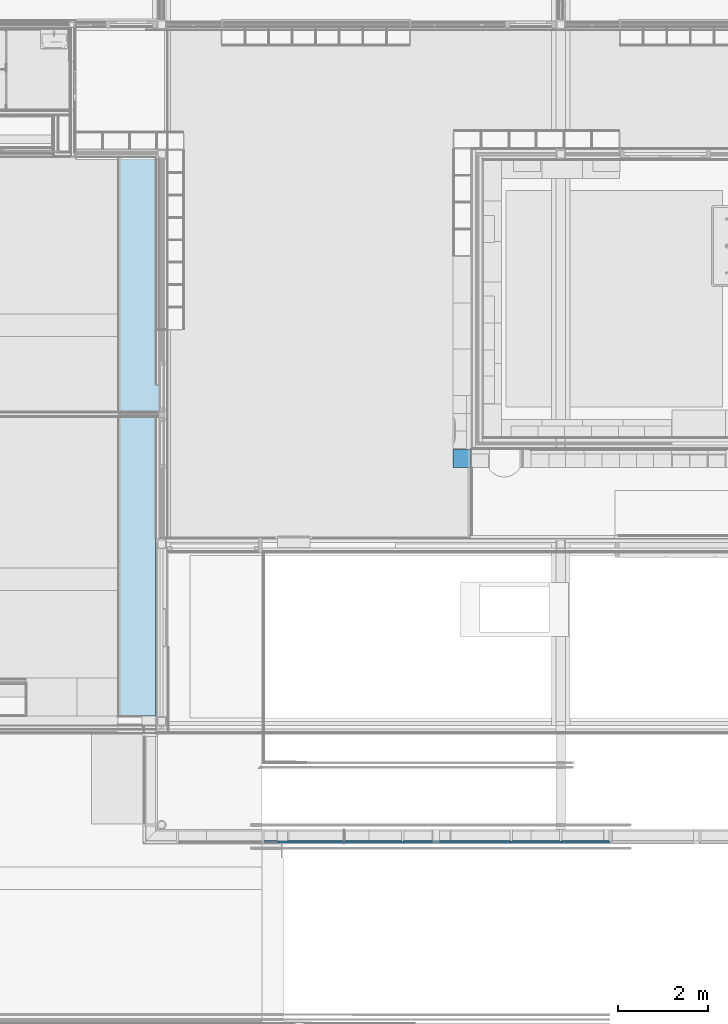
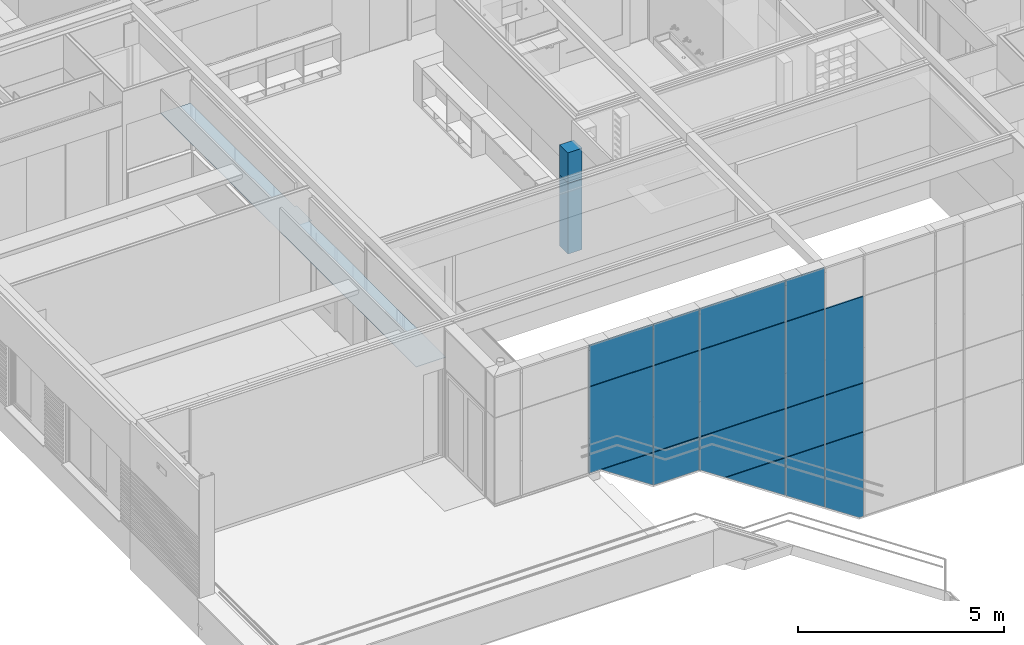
# One storey, part 36 of 137: 17 plates, 3 slabs, 1 element without a shape of its own.
"""IFC2X3 building model written with IfcOpenShell, lengths in millimetres."""

from ifc_helpers import new_model, entity, si_unit, converted_unit, derived_unit, money_unit, direction, frame, origin_with_axes, place, context, subcontext, project, spatial, faceted_brep, material, type_object, element, aggregate, save


model = new_model("IFC2X3")

# Units and contexts
model_context = context("Model", 3, precision=0.01, world=origin_with_axes(), true_north=direction((0.0, 1.0)))
body_context = subcontext(model_context, "Body", "Model", "MODEL_VIEW")
ifc_project = project(units=[si_unit("LENGTHUNIT", "METRE", prefix="MILLI"), si_unit("AREAUNIT", "SQUARE_METRE"), si_unit("VOLUMEUNIT", "CUBIC_METRE"), converted_unit("PLANEANGLEUNIT", "DEGREE", entity("IfcPlaneAngleMeasure", 0.0174532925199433), si_unit("PLANEANGLEUNIT", "RADIAN"), dimensions=[0, 0, 0, 0, 0, 0, 0]), money_unit("EUR"), converted_unit("TIMEUNIT", "Year", entity("IfcTimeMeasure", 31556926.0), si_unit("TIMEUNIT", "SECOND"), dimensions=[0, 0, 1, 0, 0, 0, 0]), si_unit("MASSUNIT", "GRAM", prefix="KILO"), si_unit("THERMODYNAMICTEMPERATUREUNIT", "DEGREE_CELSIUS"), si_unit("LUMINOUSINTENSITYUNIT", "LUMEN"), si_unit("ENERGYUNIT", "JOULE", prefix="MEGA"), derived_unit("THERMALCONDUCTANCEUNIT", [(si_unit("POWERUNIT", "WATT"), 1), (si_unit("LENGTHUNIT", "METRE"), -1), (si_unit("THERMODYNAMICTEMPERATUREUNIT", "KELVIN"), -1)]), derived_unit("SPECIFICHEATCAPACITYUNIT", [(si_unit("ENERGYUNIT", "JOULE"), 1), (si_unit("MASSUNIT", "GRAM", prefix="KILO"), -1), (si_unit("THERMODYNAMICTEMPERATUREUNIT", "KELVIN"), -1)]), derived_unit("MASSDENSITYUNIT", [(si_unit("MASSUNIT", "GRAM", prefix="KILO"), 1), (si_unit("VOLUMEUNIT", "CUBIC_METRE"), -1)])], contexts=[model_context])

# Site, building, storey
site_placement = place(None, origin_with_axes())
site = spatial("IfcSite", under=ifc_project, at=site_placement, Name="Site", CompositionType="ELEMENT")
building_placement = place(site_placement, origin_with_axes())
building = spatial("IfcBuilding", under=site, at=building_placement, Name="Naam gebouw", CompositionType="ELEMENT")
storey_placement = place(building_placement, frame((0.0, 0.0, 3960.0), z_axis=(0.0, 0.0, 1.0), x_axis=(1.0, 0.0, 0.0)))
storey = spatial("IfcBuildingStorey", under=building, at=storey_placement, Name="1e verdieping", CompositionType="ELEMENT", Elevation=3960.0)

# Slabs
ifc_material_1 = material(Name="Gipsplaat")
slab_type_1 = type_object("IfcSlabType", Name="Gipsplaat 12", PredefinedType="NOTDEFINED")
slab_1_placement = place(storey_placement, frame((7887.49997678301, 6993.999955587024, 2600.0), z_axis=(0.0, 0.0, 1.0), x_axis=(1.0, 0.0, 0.0)))
element("IfcSlab", 1, at=slab_1_placement, inside=storey, type_object=slab_type_1, material=ifc_material_1, Name="f7 Vormvaste grondstoffen, gebonden met gips_Vloer-x", PredefinedType="NOTDEFINED", context=body_context, shape_type="Brep", body=[
    faceted_brep([(900.0024147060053, 6620.999855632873, 0.0), (900.0000232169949, 7345.999855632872, 0.0), (900.0000232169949, 7345.999855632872, 11.99999999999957), (900.0024147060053, 6620.999855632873, 11.99999999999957), (840.0000232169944, 12393.49985563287, 0.0), (840.0000232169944, 7345.999855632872, 0.0), (840.0024147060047, 6620.999855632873, 0.0), (840.0024147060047, 3951.000154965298, 0.0), (827.5024289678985, 3951.000210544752, 0.0), (827.5024289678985, 0.0, 0.0), (0.0, 0.0, 0.0), (0.0, 12393.49985563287, 0.0), (840.0000232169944, 7345.999855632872, 11.99999999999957), (840.0000232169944, 12393.49985563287, 11.99999999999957), (0.0, 12393.49985563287, 11.99999999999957), (0.0, 0.0, 11.99999999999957), (827.5024289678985, 0.0, 11.99999999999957), (827.5024289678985, 3951.000210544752, 11.99999999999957), (840.0024147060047, 3951.000154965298, 11.99999999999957), (840.0024147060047, 6620.999855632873, 11.99999999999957)], [[[0, 1, 2, 3]], [[4, 5, 1, 0, 6, 7, 8, 9, 10, 11]], [[5, 12, 2, 1]], [[2, 12, 13, 14, 15, 16, 17, 18, 19, 3]], [[6, 0, 3, 19]], [[5, 4, 13, 12]], [[6, 19, 18, 7]], [[8, 7, 18, 17]], [[17, 16, 9, 8]], [[16, 15, 10, 9]], [[15, 14, 11, 10]], [[14, 13, 4, 11]]]),
])
ifc_material_2 = material(Name="ALG - BINNENAFWERKING")
slab_type_2 = type_object("IfcSlabType", Name="ALG - BINNENAFWERKING 2100", PredefinedType="NOTDEFINED")
slab_2_placement = place(storey_placement, frame((15314.99945671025, 12904.9998112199, 2100.0), z_axis=(0.0, 0.0, 1.0), x_axis=(1.0, 0.0, 0.0)))
element("IfcSlab", 2, at=slab_2_placement, inside=storey, type_object=slab_type_2, material=ifc_material_2, Name="_Vloer-x", PredefinedType="NOTDEFINED", context=body_context, shape_type="Brep", body=[
    faceted_brep([(0.0, 0.0, 0.0), (0.0, 0.0, -2100.0), (0.0, -400.0020449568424, -2100.0), (0.0, -400.0020449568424, 0.0), (399.9999971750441, 0.0, 0.0), (399.9999971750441, 0.0, -2100.0), (399.9999971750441, -400.0020449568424, -2100.0), (399.9999971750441, -400.0020449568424, 0.0)], [[[0, 1, 2, 3]], [[4, 5, 1, 0]], [[2, 1, 5, 6]], [[3, 2, 6, 7]], [[4, 0, 3, 7]], [[7, 6, 5, 4]]]),
])
slab_type_3 = type_object("IfcSlabType", Name="ALG - BINNENAFWERKING 900", PredefinedType="NOTDEFINED")
slab_3_placement = place(storey_placement, frame((15714.9994538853, 12904.9977634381, 3000.0), z_axis=(0.0, 0.0, 1.0), x_axis=(1.0, 0.0, 0.0)))
element("IfcSlab", 3, at=slab_3_placement, inside=storey, type_object=slab_type_3, material=ifc_material_2, Name="_Vloer-x", PredefinedType="NOTDEFINED", context=body_context, shape_type="Brep", body=[
    faceted_brep([(0.0, 0.0, 0.0), (0.0, 0.0, -899.9999999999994), (-399.9999971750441, 0.0, -899.9999999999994), (-399.9999971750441, 0.0, 0.0), (0.0, -399.9999971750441, 0.0), (0.0, -399.9999971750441, -899.9999999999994), (-399.9999971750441, -399.9999971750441, -899.9999999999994), (-399.9999971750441, -399.9999971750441, 0.0)], [[[0, 1, 2, 3]], [[4, 5, 1, 0]], [[2, 1, 5, 6]], [[3, 2, 6, 7]], [[4, 0, 3, 7]], [[7, 6, 5, 4]]]),
])

# Curtain wall, plates
curtain_wall_type = type_object("IfcCurtainWallType", Name="Curtain Wall Type", PredefinedType="NOTDEFINED")
curtain_wall_placement = place(storey_placement, frame((8473.014787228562, 4364.43626274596, -3949.999921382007), z_axis=(0.0, 0.0, 1.0), x_axis=(1.0, 0.0, 0.0)))
curtain_wall = element("IfcCurtainWall", 4, at=curtain_wall_placement, inside=storey, type_object=curtain_wall_type, Name="21_Vliesgevel-x")
ifc_material_3 = material(Name="Glas")
plate_type_1 = type_object("IfcPlateType", Name="Main Panel 320 x 1027 x 42", PredefinedType="CURTAIN_PANEL")
plate_1_placement = place(curtain_wall_placement, frame((7258.020604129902, -161.4362627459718, 2302.704702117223), z_axis=(0.0, 0.0, 1.0), x_axis=(-1.0, 0.0, 0.0)))
plate_1 = element("IfcPlate", 5, at=plate_1_placement, type_object=plate_type_1, material=ifc_material_3, Name="o GLAS_Paneel-x", ObjectType="CURTAIN_PANEL", context=body_context, shape_type="Brep", body=[
    faceted_brep([(-858.9591123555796, -21.00000000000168, 222.2953245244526), (488.0789548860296, -21.0000000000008, 222.2953245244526), (488.0789548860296, 20.99999999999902, 222.2953245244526), (-858.9591123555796, 20.99999999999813, 222.2953245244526), (-858.9591385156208, -21.00000000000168, 137.2950693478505), (-858.9591385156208, -21.00000000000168, -889.3526957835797), (468.6644366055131, -21.0000000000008, -4.270181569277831), (724.6950445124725, -21.0000000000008, 166.4168206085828), (808.5127611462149, -21.0000000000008, 222.2952983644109), (808.5127611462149, 20.99999999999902, 222.2952983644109), (724.6950445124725, 20.99999999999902, 166.4168206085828), (468.6644366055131, 20.99999999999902, -4.270181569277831), (-858.9591385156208, 20.99999999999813, -889.3526957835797), (-858.9591385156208, 20.99999999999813, 137.2950693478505)], [[[0, 1, 2, 3]], [[0, 4, 5, 6, 7, 8, 1]], [[1, 8, 9, 2]], [[3, 2, 9, 10, 11, 12, 13]], [[4, 0, 3, 13]], [[5, 4, 13, 12]], [[6, 5, 12, 11]], [[7, 6, 11, 10]], [[8, 7, 10, 9]]]),
])
plate_type_2 = type_object("IfcPlateType", Name="Main Panel 533 x 965 x 42", PredefinedType="CURTAIN_PANEL")
plate_2_placement = place(curtain_wall_placement, frame((5135.663754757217, -161.4362627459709, 3407.693023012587), z_axis=(0.0, 0.0, 1.0), x_axis=(-1.0, 0.0, 0.0)))
plate_2 = element("IfcPlate", 6, at=plate_2_placement, type_object=plate_type_2, material=ifc_material_3, Name="o GLAS_Paneel-x", ObjectType="CURTAIN_PANEL", context=body_context, shape_type="Brep", body=[
    faceted_brep([(-576.3166334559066, -21.0000000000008, 567.3069071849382), (165.722108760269, -21.0000000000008, 567.3069071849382), (165.722108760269, 20.99999999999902, 567.3069071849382), (-576.3166334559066, 20.99999999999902, 567.3069071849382), (-576.3166334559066, -21.0000000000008, -432.9801796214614), (-576.1776948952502, -21.0000000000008, -432.9801796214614), (-576.1776948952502, -21.0000000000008, -397.9801861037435), (165.722108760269, -21.0000000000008, -397.9801861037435), (698.6833647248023, -21.0000000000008, -397.9801861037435), (698.6833647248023, -21.0000000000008, 567.3069071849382), (698.6833647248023, 20.99999999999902, 567.3069071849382), (698.6833647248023, 20.99999999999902, -397.9801861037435), (165.722108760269, 20.99999999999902, -397.9801861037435), (-576.1776948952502, 20.99999999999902, -397.9801861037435), (-576.1776948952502, 20.99999999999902, -432.9801796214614), (-576.3166334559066, 20.99999999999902, -432.9801796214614)], [[[0, 1, 2, 3]], [[0, 4, 5, 6, 7, 8, 9, 1]], [[1, 9, 10, 2]], [[3, 2, 10, 11, 12, 13, 14, 15]], [[4, 0, 3, 15]], [[5, 4, 15, 14]], [[6, 5, 14, 13]], [[7, 6, 13, 12]], [[8, 7, 12, 11]], [[9, 8, 11, 10]]]),
])
plate_type_3 = type_object("IfcPlateType", Name="Main Panel 195 x 962 x 42", PredefinedType="CURTAIN_PANEL")
plate_3_placement = place(curtain_wall_placement, frame((3415.211090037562, -161.4362627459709, 3734.6746103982), z_axis=(0.0, 0.0, 1.0), x_axis=(-1.0, 0.0, 0.0)))
plate_3 = element("IfcPlate", 7, at=plate_3_placement, type_object=plate_type_3, material=ifc_material_3, Name="o GLAS_Paneel-x", ObjectType="CURTAIN_PANEL", context=body_context, shape_type="Brep", body=[
    faceted_brep([(-1001.769283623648, -21.00000000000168, 240.325299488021), (245.2694618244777, -21.0000000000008, 240.325299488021), (245.2694618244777, 20.99999999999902, 240.325299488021), (-1001.769283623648, 20.99999999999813, 240.325299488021), (-1001.769283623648, -21.00000000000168, -721.3226232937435), (225.8549556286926, -21.0000000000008, 97.09320989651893), (440.7032457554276, -21.0000000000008, 240.325299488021), (440.7032457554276, 20.99999999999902, 240.325299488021), (225.8549556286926, 20.99999999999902, 97.09320989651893), (-1001.769283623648, 20.99999999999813, -721.3226232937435)], [[[0, 1, 2, 3]], [[0, 4, 5, 6, 1]], [[1, 6, 7, 2]], [[3, 2, 7, 8, 9]], [[4, 0, 3, 9]], [[5, 4, 9, 8]], [[6, 5, 8, 7]]]),
])
plate_type_4 = type_object("IfcPlateType", Name="Main Panel 533 x 1500 x 42", PredefinedType="CURTAIN_PANEL")
plate_4_placement = place(curtain_wall_placement, frame((5048.345706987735, -161.4362627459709, 5210.624883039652), z_axis=(0.0, 0.0, 1.0), x_axis=(-1.0, 0.0, 0.0)))
plate_4 = element("IfcPlate", 8, at=plate_4_placement, type_object=plate_type_4, material=ifc_material_3, Name="o GLAS_Paneel-x", ObjectType="CURTAIN_PANEL", context=body_context, shape_type="Brep", body=[
    faceted_brep([(-663.6347029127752, -21.0000000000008, 1329.375022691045), (78.40405317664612, -21.0000000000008, 1329.375022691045), (78.40405317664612, 20.99999999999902, 1329.375022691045), (-663.6347029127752, 20.99999999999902, 1329.375022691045), (-663.6347029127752, -21.0000000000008, -170.6251138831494), (-663.6347029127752, -21.0000000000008, -1215.624948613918), (78.40405317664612, -21.0000000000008, -1215.624948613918), (611.3653137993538, -21.0000000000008, -1215.624948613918), (611.3653137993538, -21.0000000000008, -170.6251138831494), (611.3653137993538, -21.0000000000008, 1329.375022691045), (611.3653137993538, 20.99999999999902, 1329.375022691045), (611.3653137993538, 20.99999999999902, -170.6251138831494), (611.3653137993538, 20.99999999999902, -1215.624948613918), (78.40405317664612, 20.99999999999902, -1215.624948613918), (-663.6347029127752, 20.99999999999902, -1215.624948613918), (-663.6347029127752, 20.99999999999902, -170.6251138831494)], [[[0, 1, 2, 3]], [[0, 4, 5, 6, 7, 8, 9, 1]], [[1, 9, 10, 2]], [[3, 2, 10, 11, 12, 13, 14, 15]], [[4, 0, 3, 15]], [[5, 4, 15, 14]], [[6, 5, 14, 13]], [[7, 6, 13, 12]], [[8, 7, 12, 11]], [[9, 8, 11, 10]]]),
])
plate_5_placement = place(curtain_wall_placement, frame((3382.790487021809, -161.4362627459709, 5074.444319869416), z_axis=(0.0, 0.0, 1.0), x_axis=(-1.0, 0.0, 0.0)))
plate_5 = element("IfcPlate", 9, at=plate_5_placement, type_object=plate_type_4, material=ifc_material_3, Name="o GLAS_Paneel-x", ObjectType="CURTAIN_PANEL", context=body_context, shape_type="Brep", body=[
    faceted_brep([(-1034.18991738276, -21.00000000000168, 1465.555585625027), (212.8488356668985, -21.0000000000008, 1465.555585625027), (212.8488356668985, 20.99999999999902, 1465.555585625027), (-1034.18991738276, 20.99999999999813, 1465.555585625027), (-1034.18991738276, -21.00000000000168, -34.44454816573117), (-1034.189879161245, -21.00000000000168, -1079.444407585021), (212.8488356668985, -21.0000000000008, -1079.444407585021), (439.4601506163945, -21.0000000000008, -1079.444407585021), (439.4601506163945, -21.0000000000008, -1089.444417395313), (745.8039552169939, -21.0000000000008, -1089.444455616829), (745.8039552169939, -21.0000000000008, -34.44454816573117), (745.8039552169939, -21.0000000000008, 1465.555585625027), (745.8039552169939, 20.99999999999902, 1465.555585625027), (745.8039552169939, 20.99999999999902, -34.44454816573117), (745.8039552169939, 20.99999999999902, -1089.444455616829), (439.4601506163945, 20.99999999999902, -1089.444417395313), (439.4601506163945, 20.99999999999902, -1079.444407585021), (212.8488356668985, 20.99999999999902, -1079.444407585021), (-1034.189879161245, 20.99999999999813, -1079.444407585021), (-1034.18991738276, 20.99999999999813, -34.44454816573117)], [[[0, 1, 2, 3]], [[0, 4, 5, 6, 7, 8, 9, 10, 11, 1]], [[1, 11, 12, 2]], [[3, 2, 12, 13, 14, 15, 16, 17, 18, 19]], [[4, 0, 3, 19]], [[5, 4, 19, 18]], [[6, 5, 18, 17]], [[7, 6, 17, 16]], [[8, 7, 16, 15]], [[9, 8, 15, 14]], [[10, 9, 14, 13]], [[11, 10, 13, 12]]]),
])
plate_type_5 = type_object("IfcPlateType", Name="Main Panel 1070 x 1500 x 42", PredefinedType="CURTAIN_PANEL")
plate_6_placement = place(curtain_wall_placement, frame((9771.980060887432, -161.4362627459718, 5191.666536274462), z_axis=(0.0, 0.0, 1.0), x_axis=(-1.0, 0.0, 0.0)))
plate_6 = element("IfcPlate", 10, at=plate_6_placement, type_object=plate_type_5, material=ifc_material_3, Name="o GLAS_Paneel-x", ObjectType="CURTAIN_PANEL", context=body_context, shape_type="Brep", body=[
    faceted_brep([(-535.0002989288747, -20.99999999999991, 1348.333369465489), (535.0003040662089, -20.99999999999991, 1348.333369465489), (535.0003040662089, 20.99999999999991, 1348.333369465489), (-535.0002989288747, 20.99999999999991, 1348.333369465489), (-535.0002989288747, -20.99999999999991, -151.6667657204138), (-535.0002989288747, -20.99999999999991, -1196.666599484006), (535.0003040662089, -20.99999999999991, -1196.666599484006), (535.0003040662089, -20.99999999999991, -151.6667657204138), (535.0003040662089, 20.99999999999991, -151.6667657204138), (535.0003040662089, 20.99999999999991, -1196.666599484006), (-535.0002989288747, 20.99999999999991, -1196.666599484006), (-535.0002989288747, 20.99999999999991, -151.6667657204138)], [[[0, 1, 2, 3]], [[0, 4, 5, 6, 7, 1]], [[1, 7, 8, 2]], [[3, 2, 8, 9, 10, 11]], [[4, 0, 3, 11]], [[5, 4, 11, 10]], [[6, 5, 10, 9]], [[7, 6, 9, 8]]]),
])
plate_type_6 = type_object("IfcPlateType", Name="Main Panel 433 x 85 x 42", PredefinedType="CURTAIN_PANEL")
plate_7_placement = place(curtain_wall_placement, frame((8650.220211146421, -161.4362627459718, 1943.777491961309), z_axis=(0.0, 0.0, 1.0), x_axis=(-1.0, 0.0, 0.0)))
plate_7 = element("IfcPlate", 11, at=plate_7_placement, type_object=plate_type_6, material=ifc_material_3, Name="o GLAS_Paneel-x", ObjectType="CURTAIN_PANEL", context=body_context, shape_type="Brep", body=[
    faceted_brep([(-566.7595421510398, -21.0000000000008, 581.2225436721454), (80.2785712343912, -20.99999999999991, 581.2225436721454), (80.2785712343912, 20.99999999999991, 581.2225436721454), (-566.7595421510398, 20.99999999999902, 581.2225436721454), (-566.7595421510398, -21.0000000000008, 496.2222745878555), (-566.7595137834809, -21.0000000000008, -1263.758849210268), (60.86406939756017, -20.99999999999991, -845.3431743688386), (513.240477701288, -20.99999999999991, -543.7588359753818), (513.240477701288, -20.99999999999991, 496.2222745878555), (513.240506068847, -20.99999999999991, 581.2225436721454), (513.240506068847, 20.99999999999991, 581.2225436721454), (513.240477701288, 20.99999999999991, 496.2222745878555), (513.240477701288, 20.99999999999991, -543.7588359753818), (60.86406939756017, 20.99999999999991, -845.3431743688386), (-566.7595137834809, 20.99999999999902, -1263.758849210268), (-566.7595421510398, 20.99999999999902, 496.2222745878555)], [[[0, 1, 2, 3]], [[0, 4, 5, 6, 7, 8, 9, 1]], [[1, 9, 10, 2]], [[3, 2, 10, 11, 12, 13, 14, 15]], [[4, 0, 3, 15]], [[5, 4, 15, 14]], [[6, 5, 14, 13]], [[7, 6, 13, 12]], [[8, 7, 12, 11]], [[9, 8, 11, 10]]]),
])
plate_type_7 = type_object("IfcPlateType", Name="Main Panel 1070 x 85 x 42", PredefinedType="CURTAIN_PANEL")
plate_8_placement = place(curtain_wall_placement, frame((9829.39868508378, -161.4362627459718, 1511.612409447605), z_axis=(0.0, 0.0, 1.0), x_axis=(-1.0, 0.0, 0.0)))
plate_8 = element("IfcPlate", 12, at=plate_8_placement, type_object=plate_type_7, material=ifc_material_3, Name="o GLAS_Paneel-x", ObjectType="CURTAIN_PANEL", context=body_context, shape_type="Brep", body=[
    faceted_brep([(-477.5816595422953, -20.99999999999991, 1013.387615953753), (592.4189254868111, -20.99999999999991, 1013.387615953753), (592.4189254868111, 20.99999999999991, 1013.387615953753), (-477.5816595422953, 20.99999999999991, 1013.387615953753), (-477.5816595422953, -20.99999999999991, 928.3873689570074), (-477.5816595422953, -20.99999999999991, -1476.612389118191), (-355.1090156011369, -20.99999999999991, -1476.612389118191), (592.4189632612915, -20.99999999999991, -844.9271076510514), (592.4189254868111, -20.99999999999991, 928.3873689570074), (592.4189254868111, 20.99999999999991, 928.3873689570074), (592.4189632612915, 20.99999999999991, -844.9271076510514), (-355.1090156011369, 20.99999999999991, -1476.612389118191), (-477.5816595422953, 20.99999999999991, -1476.612389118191), (-477.5816595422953, 20.99999999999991, 928.3873689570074)], [[[0, 1, 2, 3]], [[0, 4, 5, 6, 7, 8, 1]], [[1, 8, 9, 2]], [[3, 2, 9, 10, 11, 12, 13]], [[4, 0, 3, 13]], [[5, 4, 13, 12]], [[6, 5, 12, 11]], [[7, 6, 11, 10]], [[8, 7, 10, 9]]]),
])
plate_type_8 = type_object("IfcPlateType", Name="Main Panel 1070 x 1430 x 42", PredefinedType="CURTAIN_PANEL")
plate_9_placement = place(curtain_wall_placement, frame((9771.980055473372, -161.4362627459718, 3259.999976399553), z_axis=(0.0, 0.0, 1.0), x_axis=(-1.0, 0.0, 0.0)))
plate_9 = element("IfcPlate", 13, at=plate_9_placement, type_object=plate_type_8, material=ifc_material_3, Name="o GLAS_Paneel-x", ObjectType="CURTAIN_PANEL", context=body_context, shape_type="Brep", body=[
    faceted_brep([(-535.0003210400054, -20.99999999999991, 714.9999582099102), (535.0003149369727, -20.99999999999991, 714.9999582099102), (535.0003149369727, 20.99999999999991, 714.9999582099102), (-535.0003210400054, 20.99999999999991, 714.9999582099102), (-535.0002994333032, -20.99999999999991, -714.9999582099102), (535.0003149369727, -20.99999999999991, -714.9999582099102), (535.0003149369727, 20.99999999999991, -714.9999582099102), (-535.0002994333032, 20.99999999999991, -714.9999582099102)], [[[0, 1, 2, 3]], [[0, 4, 5, 1]], [[1, 5, 6, 2]], [[3, 2, 6, 7]], [[4, 0, 3, 7]], [[5, 4, 7, 6]]]),
])
plate_type_9 = type_object("IfcPlateType", Name="Main Panel 433 x 1500 x 42", PredefinedType="CURTAIN_PANEL")
plate_10_placement = place(curtain_wall_placement, frame((8650.220210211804, -161.4362627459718, 5210.624882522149), z_axis=(0.0, 0.0, 1.0), x_axis=(-1.0, 0.0, 0.0)))
plate_10 = element("IfcPlate", 14, at=plate_10_placement, type_object=plate_type_9, material=ifc_material_3, Name="o GLAS_Paneel-x", ObjectType="CURTAIN_PANEL", context=body_context, shape_type="Brep", body=[
    faceted_brep([(-566.7595537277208, -21.0000000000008, 1329.375023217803), (80.27855659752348, -20.99999999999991, 1329.375023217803), (80.27855659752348, 20.99999999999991, 1329.375023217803), (-566.7595537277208, 20.99999999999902, 1329.375023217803), (-566.7595537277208, -21.0000000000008, -170.625111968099), (-566.7595537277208, -21.0000000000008, -1215.624945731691), (80.27855659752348, -20.99999999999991, -1215.624945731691), (513.2404855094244, -20.99999999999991, -1215.624945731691), (513.2404855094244, -20.99999999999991, -170.625111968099), (513.2404855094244, -20.99999999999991, 1329.375023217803), (513.2404855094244, 20.99999999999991, 1329.375023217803), (513.2404855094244, 20.99999999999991, -170.625111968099), (513.2404855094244, 20.99999999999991, -1215.624945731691), (80.27855659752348, 20.99999999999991, -1215.624945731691), (-566.7595537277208, 20.99999999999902, -1215.624945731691), (-566.7595537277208, 20.99999999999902, -170.625111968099)], [[[0, 1, 2, 3]], [[0, 4, 5, 6, 7, 8, 9, 1]], [[1, 9, 10, 2]], [[3, 2, 10, 11, 12, 13, 14, 15]], [[4, 0, 3, 15]], [[5, 4, 15, 14]], [[6, 5, 14, 13]], [[7, 6, 13, 12]], [[8, 7, 12, 11]], [[9, 8, 11, 10]]]),
])
plate_type_10 = type_object("IfcPlateType", Name="Main Panel 1038 x 1500 x 42", PredefinedType="CURTAIN_PANEL")
plate_11_placement = place(curtain_wall_placement, frame((6885.845452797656, -161.4362627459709, 5210.624882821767), z_axis=(0.0, 0.0, 1.0), x_axis=(-1.0, 0.0, 0.0)))
plate_11 = element("IfcPlate", 15, at=plate_11_placement, type_object=plate_type_10, material=ifc_material_3, Name="o GLAS_Paneel-x", ObjectType="CURTAIN_PANEL", context=body_context, shape_type="Brep", body=[
    faceted_brep([(-1231.134270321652, -21.0000000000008, 1329.375022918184), (115.9038215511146, -20.99999999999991, 1329.375022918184), (115.9038215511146, 20.99999999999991, 1329.375022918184), (-1231.134270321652, 20.99999999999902, 1329.375022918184), (-1231.134270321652, -21.0000000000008, -170.625112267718), (-1231.134270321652, -21.0000000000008, -1215.62494603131), (115.9038215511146, -20.99999999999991, -1215.62494603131), (1153.865048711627, -20.99999999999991, -1215.62494603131), (1153.865048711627, -20.99999999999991, -170.625112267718), (1153.865048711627, -20.99999999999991, 1329.375022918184), (1153.865048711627, 20.99999999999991, 1329.375022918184), (1153.865048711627, 20.99999999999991, -170.625112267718), (1153.865048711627, 20.99999999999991, -1215.62494603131), (115.9038215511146, 20.99999999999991, -1215.62494603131), (-1231.134270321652, 20.99999999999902, -1215.62494603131), (-1231.134270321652, 20.99999999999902, -170.625112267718)], [[[0, 1, 2, 3]], [[0, 4, 5, 6, 7, 8, 9, 1]], [[1, 9, 10, 2]], [[3, 2, 10, 11, 12, 13, 14, 15]], [[4, 0, 3, 15]], [[5, 4, 15, 14]], [[6, 5, 14, 13]], [[7, 6, 13, 12]], [[8, 7, 12, 11]], [[9, 8, 11, 10]]]),
])
plate_type_11 = type_object("IfcPlateType", Name="Main Panel 1038 x 1000 x 42", PredefinedType="CURTAIN_PANEL")
plate_12_placement = place(curtain_wall_placement, frame((6665.131955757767, -161.4362627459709, 3188.678191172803), z_axis=(0.0, 0.0, 1.0), x_axis=(-1.0, 0.0, 0.0)))
plate_12 = element("IfcPlate", 16, at=plate_12_placement, type_object=plate_type_11, material=ifc_material_3, Name="o GLAS_Paneel-x", ObjectType="CURTAIN_PANEL", context=body_context, shape_type="Brep", body=[
    faceted_brep([(-1451.847770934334, -21.00000000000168, 786.321734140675), (-104.8097005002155, -21.0000000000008, 786.321734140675), (-104.8097005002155, 20.99999999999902, 786.321734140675), (-1451.847770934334, 20.99999999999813, 786.321734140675), (-1451.847770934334, -21.00000000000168, -643.6781610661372), (-104.8097005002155, -21.0000000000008, -643.6781610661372), (245.6241311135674, -21.0000000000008, -643.6781970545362), (890.1933784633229, -21.0000000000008, -213.9653414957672), (933.1515786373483, -21.0000000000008, -213.9653414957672), (933.1515786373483, -21.0000000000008, 786.321734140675), (933.1515786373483, 20.99999999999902, 786.321734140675), (933.1515786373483, 20.99999999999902, -213.9653414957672), (890.1933784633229, 20.99999999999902, -213.9653414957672), (245.6241311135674, 20.99999999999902, -643.6781970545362), (-104.8097005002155, 20.99999999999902, -643.6781610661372), (-1451.847770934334, 20.99999999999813, -643.6781610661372)], [[[0, 1, 2, 3]], [[0, 4, 5, 6, 7, 8, 9, 1]], [[1, 9, 10, 2]], [[3, 2, 10, 11, 12, 13, 14, 15]], [[4, 0, 3, 15]], [[5, 4, 15, 14]], [[6, 5, 14, 13]], [[7, 6, 13, 12]], [[8, 7, 12, 11]], [[9, 8, 11, 10]]]),
])
plate_type_12 = type_object("IfcPlateType", Name="Main Panel 533 x 125 x 42", PredefinedType="CURTAIN_PANEL")
plate_13_placement = place(curtain_wall_placement, frame((3437.723006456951, -161.4362627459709, 7291.249917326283), z_axis=(0.0, 0.0, 1.0), x_axis=(-1.0, 0.0, 0.0)))
plate_13 = element("IfcPlate", 17, at=plate_13_placement, type_object=plate_type_12, material=ifc_material_3, Name="o GLAS_Paneel-x", ObjectType="CURTAIN_PANEL", context=body_context, shape_type="Brep", body=[
    faceted_brep([(-979.2573902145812, -21.00000000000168, 473.7501066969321), (267.7813586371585, -21.0000000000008, 473.7501066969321), (267.7813586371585, 20.99999999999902, 473.7501066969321), (-979.2573902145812, 20.99999999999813, 473.7501066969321), (-979.2573902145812, -21.00000000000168, 348.7498430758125), (-979.2573902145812, -21.00000000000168, -731.2500002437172), (267.7813586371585, -21.0000000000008, -731.2500002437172), (800.7364889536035, -21.0000000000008, -731.2500002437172), (800.7364621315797, -21.0000000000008, 348.7498430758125), (800.7364889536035, -21.0000000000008, 473.7501066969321), (800.7364889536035, 20.99999999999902, 473.7501066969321), (800.7364621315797, 20.99999999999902, 348.7498430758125), (800.7364889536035, 20.99999999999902, -731.2500002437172), (267.7813586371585, 20.99999999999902, -731.2500002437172), (-979.2573902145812, 20.99999999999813, -731.2500002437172), (-979.2573902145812, 20.99999999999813, 348.7498430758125)], [[[0, 1, 2, 3]], [[0, 4, 5, 6, 7, 8, 9, 1]], [[1, 9, 10, 2]], [[3, 2, 10, 11, 12, 13, 14, 15]], [[4, 0, 3, 15]], [[5, 4, 15, 14]], [[6, 5, 14, 13]], [[7, 6, 13, 12]], [[8, 7, 12, 11]], [[9, 8, 11, 10]]]),
])
plate_14_placement = place(curtain_wall_placement, frame((5048.345704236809, -161.4362627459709, 7291.249917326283), z_axis=(0.0, 0.0, 1.0), x_axis=(-1.0, 0.0, 0.0)))
plate_14 = element("IfcPlate", 18, at=plate_14_placement, type_object=plate_type_12, material=ifc_material_3, Name="o GLAS_Paneel-x", ObjectType="CURTAIN_PANEL", context=body_context, shape_type="Brep", body=[
    faceted_brep([(-663.6346839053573, -21.0000000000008, 473.7501072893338), (78.40405541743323, -21.0000000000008, 473.7501072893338), (78.40405541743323, 20.99999999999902, 473.7501072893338), (-663.6346839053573, 20.99999999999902, 473.7501072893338), (-663.6346839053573, -21.0000000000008, 348.7498442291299), (-663.6346839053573, -21.0000000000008, -731.2499956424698), (78.40405541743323, -21.0000000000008, -731.2499956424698), (611.3653093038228, -21.0000000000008, -731.2499956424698), (611.3653093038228, -21.0000000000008, 348.7498442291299), (611.3653093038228, -21.0000000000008, 473.7501072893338), (611.3653093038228, 20.99999999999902, 473.7501072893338), (611.3653093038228, 20.99999999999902, 348.7498442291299), (611.3653093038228, 20.99999999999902, -731.2499956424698), (78.40405541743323, 20.99999999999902, -731.2499956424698), (-663.6346839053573, 20.99999999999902, -731.2499956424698), (-663.6346839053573, 20.99999999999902, 348.7498442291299)], [[[0, 1, 2, 3]], [[0, 4, 5, 6, 7, 8, 9, 1]], [[1, 9, 10, 2]], [[3, 2, 10, 11, 12, 13, 14, 15]], [[4, 0, 3, 15]], [[5, 4, 15, 14]], [[6, 5, 14, 13]], [[7, 6, 13, 12]], [[8, 7, 12, 11]], [[9, 8, 11, 10]]]),
])
plate_type_13 = type_object("IfcPlateType", Name="Main Panel 433 x 125 x 42", PredefinedType="CURTAIN_PANEL")
plate_15_placement = place(curtain_wall_placement, frame((8650.220208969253, -161.4362627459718, 7291.249917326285), z_axis=(0.0, 0.0, 1.0), x_axis=(-1.0, 0.0, 0.0)))
plate_15 = element("IfcPlate", 19, at=plate_15_placement, type_object=plate_type_13, material=ifc_material_3, Name="o GLAS_Paneel-x", ObjectType="CURTAIN_PANEL", context=body_context, shape_type="Brep", body=[
    faceted_brep([(-566.7595166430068, -21.0000000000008, 473.7501072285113), (80.27855642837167, -20.99999999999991, 473.7501072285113), (80.27855642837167, 20.99999999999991, 473.7501072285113), (-566.7595166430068, 20.99999999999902, 473.7501072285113), (-566.7595166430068, -21.0000000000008, 348.749854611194), (-566.7595352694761, -21.0000000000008, -731.2500086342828), (80.27855642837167, -20.99999999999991, -731.2500086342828), (513.2404956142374, -20.99999999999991, -731.2500086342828), (513.2404583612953, -20.99999999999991, 348.749854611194), (513.2404956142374, -20.99999999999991, 473.7501072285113), (513.2404956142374, 20.99999999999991, 473.7501072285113), (513.2404583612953, 20.99999999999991, 348.749854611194), (513.2404956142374, 20.99999999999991, -731.2500086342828), (80.27855642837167, 20.99999999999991, -731.2500086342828), (-566.7595352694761, 20.99999999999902, -731.2500086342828), (-566.7595166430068, 20.99999999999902, 348.749854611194)], [[[0, 1, 2, 3]], [[0, 4, 5, 6, 7, 8, 9, 1]], [[1, 9, 10, 2]], [[3, 2, 10, 11, 12, 13, 14, 15]], [[4, 0, 3, 15]], [[5, 4, 15, 14]], [[6, 5, 14, 13]], [[7, 6, 13, 12]], [[8, 7, 12, 11]], [[9, 8, 11, 10]]]),
])
plate_type_14 = type_object("IfcPlateType", Name="Main Panel 1038 x 125 x 42", PredefinedType="CURTAIN_PANEL")
plate_16_placement = place(curtain_wall_placement, frame((6885.845454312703, -161.4362627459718, 7291.249917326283), z_axis=(0.0, 0.0, 1.0), x_axis=(-1.0, 0.0, 0.0)))
plate_16 = element("IfcPlate", 20, at=plate_16_placement, type_object=plate_type_14, material=ifc_material_3, Name="o GLAS_Paneel-x", ObjectType="CURTAIN_PANEL", context=body_context, shape_type="Brep", body=[
    faceted_brep([(-1231.134260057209, -21.00000000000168, 473.7501031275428), (115.9038188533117, -21.0000000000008, 473.7501031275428), (115.9038188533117, 20.99999999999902, 473.7501031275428), (-1231.134260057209, 20.99999999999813, 473.7501031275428), (-1231.134295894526, -21.00000000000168, 348.7498618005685), (-1231.134260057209, -21.00000000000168, -731.2499927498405), (115.9038188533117, -21.0000000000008, -731.2499927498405), (1153.865066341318, -21.0000000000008, -731.2499927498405), (1153.865066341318, -21.0000000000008, 348.7498618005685), (1153.865066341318, -21.0000000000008, 473.7501031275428), (1153.865066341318, 20.99999999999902, 473.7501031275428), (1153.865066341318, 20.99999999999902, 348.7498618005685), (1153.865066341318, 20.99999999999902, -731.2499927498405), (115.9038188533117, 20.99999999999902, -731.2499927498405), (-1231.134260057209, 20.99999999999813, -731.2499927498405), (-1231.134295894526, 20.99999999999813, 348.7498618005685)], [[[0, 1, 2, 3]], [[0, 4, 5, 6, 7, 8, 9, 1]], [[1, 9, 10, 2]], [[3, 2, 10, 11, 12, 13, 14, 15]], [[4, 0, 3, 15]], [[5, 4, 15, 14]], [[6, 5, 14, 13]], [[7, 6, 13, 12]], [[8, 7, 12, 11]], [[9, 8, 11, 10]]]),
])
plate_type_15 = type_object("IfcPlateType", Name="Main Panel 433 x 1430 x 42", PredefinedType="CURTAIN_PANEL")
plate_17_placement = place(curtain_wall_placement, frame((8641.300369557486, -161.4362627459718, 3259.999976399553), z_axis=(0.0, 0.0, 1.0), x_axis=(-1.0, 0.0, 0.0)))
plate_17 = element("IfcPlate", 21, at=plate_17_placement, type_object=plate_type_15, material=ifc_material_3, Name="o GLAS_Paneel-x", ObjectType="CURTAIN_PANEL", context=body_context, shape_type="Brep", body=[
    faceted_brep([(-575.6793834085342, -21.0000000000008, 714.9999582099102), (71.35872194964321, -20.99999999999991, 714.9999582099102), (71.35872194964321, 20.99999999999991, 714.9999582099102), (-575.6793834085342, 20.99999999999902, 714.9999582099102), (-575.6793834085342, -21.0000000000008, -714.9999582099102), (71.35872194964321, -20.99999999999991, -714.9999582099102), (504.3206618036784, -20.99999999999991, -714.9999582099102), (504.3206618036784, -20.99999999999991, 714.9999582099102), (504.3206618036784, 20.99999999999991, 714.9999582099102), (504.3206618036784, 20.99999999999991, -714.9999582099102), (71.35872194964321, 20.99999999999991, -714.9999582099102), (-575.6793834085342, 20.99999999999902, -714.9999582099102)], [[[0, 1, 2, 3]], [[0, 4, 5, 6, 7, 1]], [[1, 7, 8, 2]], [[3, 2, 8, 9, 10, 11]], [[4, 0, 3, 11]], [[5, 4, 11, 10]], [[6, 5, 10, 9]], [[7, 6, 9, 8]]]),
])
aggregate(curtain_wall, [plate_1, plate_3, plate_2, plate_4, plate_6, plate_7, plate_8, plate_9, plate_10, plate_11, plate_5, plate_12, plate_13, plate_15, plate_16, plate_14, plate_17])

save(model, "model.ifc")
